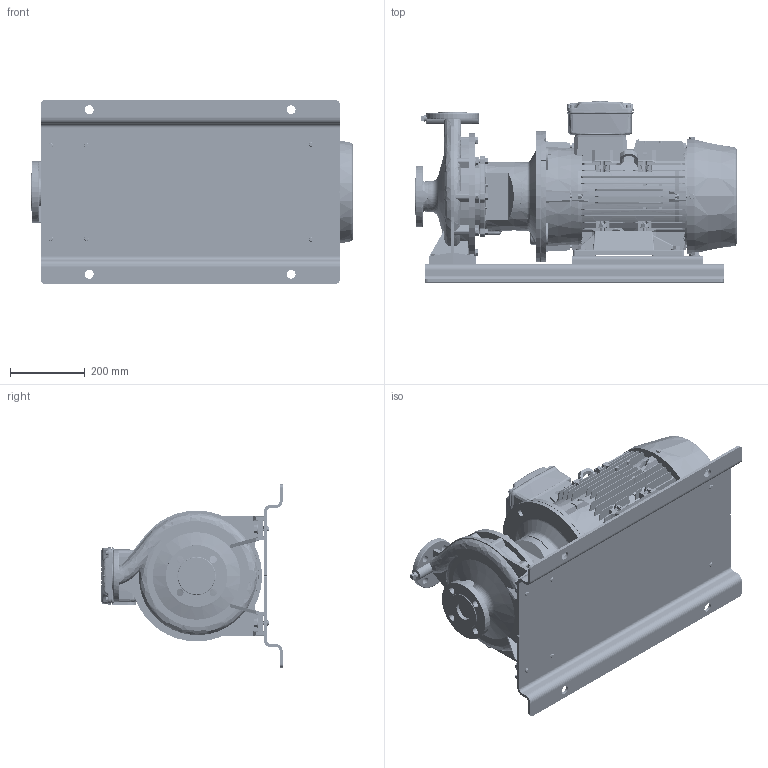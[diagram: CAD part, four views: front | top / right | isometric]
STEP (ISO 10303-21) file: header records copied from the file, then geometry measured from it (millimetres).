
FILE_DESCRIPTION (( 'STEP AP214' ), '1' );
FILE_NAME ('GSD2 32-250_11.0, 15.0 & 18.5_(160ML)_W21_BP.STEP', '2024-03-18T03:42:46', ( '' ), ( '' ), 'SwSTEP 2.0', 'SolidWorks 2019', '' );
FILE_SCHEMA (( 'AUTOMOTIVE_DESIGN' ));
Length unit declared in the file: millimetre
Products named in the file (18): Parametric bolt and washer_SFT-A301B; Parametric bolt and washer_SFT-A299B; 160M_L_ALIE3_W21T_B35; N5S3 GSDA-535 F1-1832926-00; Parametric Flat Washer_M12; 32-250-160M_L; Parametric bolt_SFT-A299B; 210_254 x 20 - 271472113; Parametric bolt_SFT-A301B; GSD2  32-250_11.0, 15.0 & 18.5_(160ML)_W21_BP
Assembly tree (35 placements, depth 3):
  GSD2  32-250_11.0, 15.0 & 18.5_(160ML)_W21_BP
    32-250-160M_L
    N5S3 GSDA-535 F1-1832926-00
    210_254 x 20 - 271472113  x2
    Parametric bolt and washer_SFT-A299B
      Parametric bolt_SFT-A299B
      Parametric Flat Washer_M12
    Parametric bolt and washer_SFT-A299B
      Parametric bolt_SFT-A299B
      Parametric Flat Washer_M12
    Parametric bolt and washer_SFT-A299B
      Parametric bolt_SFT-A299B
      Parametric Flat Washer_M12
    Parametric bolt and washer_SFT-A299B
      Parametric bolt_SFT-A299B
      Parametric Flat Washer_M12
    Parametric bolt and washer_SFT-A301B
      Parametric bolt_SFT-A301B
      Parametric Flat Washer_M12
    Parametric bolt and washer_SFT-A301B
      Parametric bolt_SFT-A301B
      Parametric Flat Washer_M12
    Parametric bolt and washer_SFT-A301B
      Parametric bolt_SFT-A301B
      Parametric Flat Washer_M12
    Parametric bolt and washer_SFT-A301B
      Parametric bolt_SFT-A301B
      Parametric Flat Washer_M12
    Parametric bolt and washer_SFT-A301B
      Parametric bolt_SFT-A301B
      Parametric Flat Washer_M12
    Parametric bolt and washer_SFT-A301B
      Parametric bolt_SFT-A301B
      Parametric Flat Washer_M12
    160M_L_ALIE3_W21T_B35
Bounding box: 860.3 x 484.53 x 490 mm (x, y, z)
Volume: 48130102.1 mm3; surface area: 3829143.2 mm2
Topology: 70 solids, 76 shells, 6472 faces, 16806 edges, 10923 vertices
Faces by surface type: plane 3856, cylinder 1285, cone 624, bspline 443, torus 248, sphere 16
Entity records: 284491 total; most frequent: CARTESIAN_POINT 78889, ORIENTED_EDGE 30960, DIRECTION 26452, EDGE_CURVE 15480, VERTEX_POINT 10076, VECTOR 9768, LINE 9768, AXIS2_PLACEMENT_3D 8342
